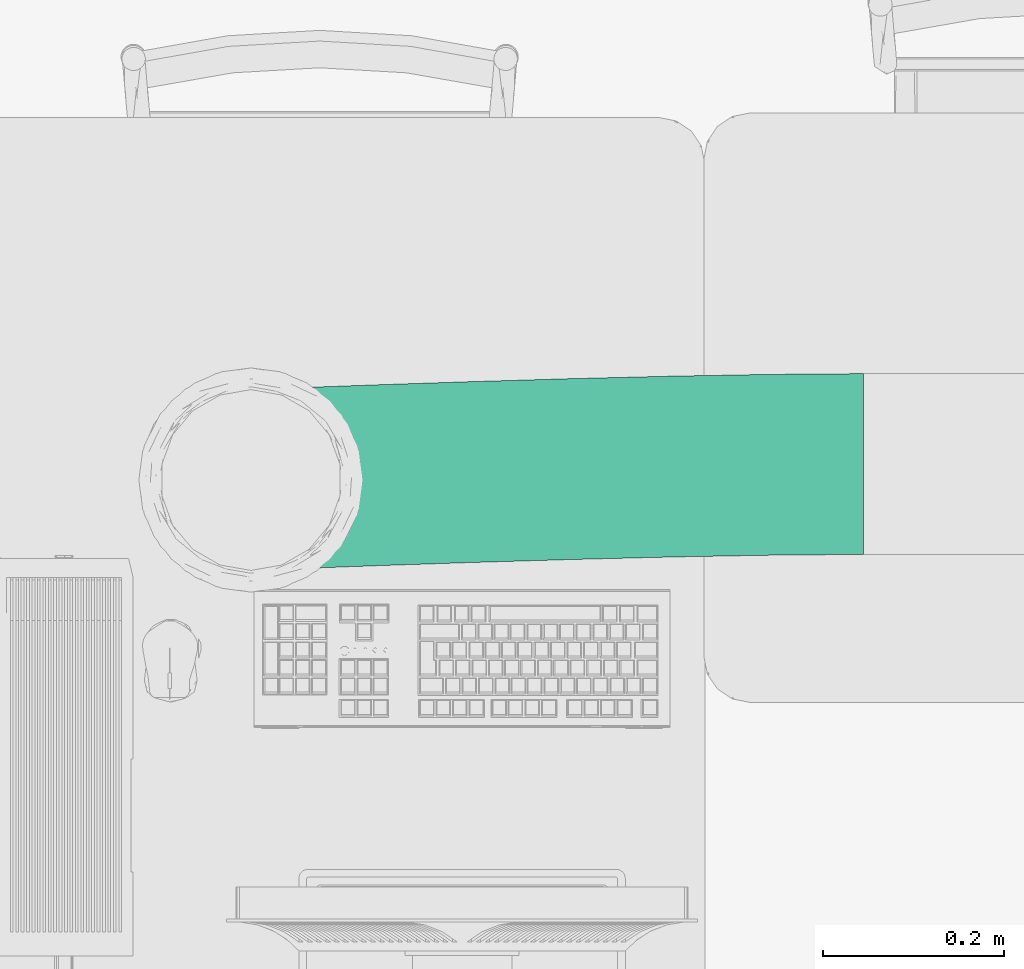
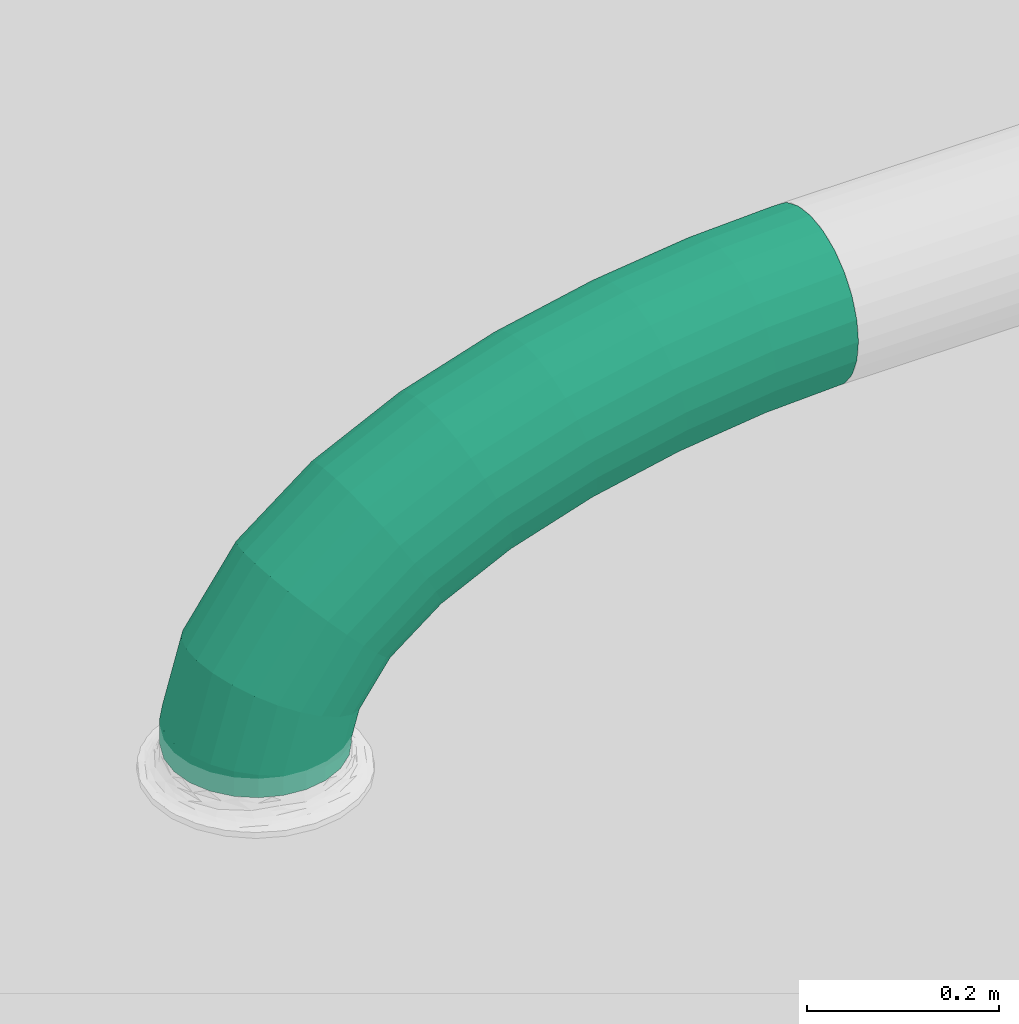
# One storey, part 26 of 31: 1 flow segment.
"""IFC2X3 building model written with IfcOpenShell, lengths in millimetres."""

import ifcopenshell
import ifcopenshell.guid

model = None  # the IFC model being written
_history = None  # IfcOwnerHistory: only IFC2X3 demands one
_inside = {}  # id of a spatial element -> (the spatial element, [elements in it])
_under = {}  # id of a project, library or spatial element -> (it, [spatial elements below it])
_declared = {}  # id of a project -> (the project, [libraries it declares])
_typed = {}  # id of a type object -> (the type object, [elements of that type])
_made_of = {}  # id of a material, layer set ... -> (it, [elements and type objects made of it])


def new_model(schema):
    """Start an empty IFC model of exactly this schema.

    Asked for "IFC4X3", IfcOpenShell would pick the latest addendum, in which some entities
    have other attributes; the version numbers below select the first issue.
    IFC2X3 requires an IfcOwnerHistory on every rooted entity: one is made here for all.
    """
    global model, _history
    if schema == "IFC4X3":
        model = ifcopenshell.file(schema_version=(4, 3, 0, 0))
    else:
        model = ifcopenshell.file(schema=schema)
    _inside.clear()
    _under.clear()
    _declared.clear()
    _typed.clear()
    _made_of.clear()
    _history = None
    if model.schema == "IFC2X3":
        org = make("IfcOrganization", Name="unknown")
        user = make(
            "IfcPersonAndOrganization",
            ThePerson=make("IfcPerson", FamilyName="unknown"),
            TheOrganization=org,
        )
        app = make(
            "IfcApplication",
            ApplicationDeveloper=org,
            Version="unknown",
            ApplicationFullName="unknown",
            ApplicationIdentifier="unknown",
        )
        _history = make(
            "IfcOwnerHistory",
            OwningUser=user,
            OwningApplication=app,
            ChangeAction="ADDED",
            CreationDate=0,
        )
    return model


def make(cls, **values):
    """One entity of the class cls with the attributes given. An attribute that is None is left unset."""
    return model.create_entity(
        cls, **{name: value for name, value in values.items() if value is not None}
    )


def entity(cls, *values):
    """Any entity or typed value of the class cls, its attributes in the order of the schema. None: left unset."""
    e = model.create_entity(cls)
    for i, value in enumerate(values):
        if value is not None:
            e[i] = value
    return e


def rooted(cls, **values):
    """An entity with a GlobalId (a new one), such as an element, a storey or a relation."""
    return make(cls, GlobalId=ifcopenshell.guid.new(), OwnerHistory=_history, **values)


def si_unit(unit_type, name, prefix=None):
    """IfcSIUnit, for example si_unit("LENGTHUNIT", "METRE", prefix="MILLI")."""
    return make("IfcSIUnit", UnitType=unit_type, Prefix=prefix, Name=name)


def converted_unit(unit_type, name, factor, base, dimensions=None, offset=None):
    """IfcConversionBasedUnit, such as the inch: factor (a typed value) times the base unit."""
    return make(
        "IfcConversionBasedUnit"
        if offset is None
        else "IfcConversionBasedUnitWithOffset",
        ConversionOffset=offset,
        Dimensions=None
        if dimensions is None
        else entity("IfcDimensionalExponents", *dimensions),
        UnitType=unit_type,
        Name=name,
        ConversionFactor=make(
            "IfcMeasureWithUnit", ValueComponent=factor, UnitComponent=base
        ),
    )


def derived_unit(unit_type, elements):
    """IfcDerivedUnit: a product of units, each with its exponent."""
    return make(
        "IfcDerivedUnit",
        Elements=[
            make("IfcDerivedUnitElement", Unit=unit, Exponent=power)
            for unit, power in elements
        ],
        UnitType=unit_type,
    )


def assignment(units):
    """IfcUnitAssignment: the units of a project."""
    return None if units is None else make("IfcUnitAssignment", Units=units)


def point(xyz):
    """IfcCartesianPoint."""
    return None if xyz is None else make("IfcCartesianPoint", Coordinates=xyz)


def direction(xyz):
    """IfcDirection."""
    return None if xyz is None else make("IfcDirection", DirectionRatios=xyz)


def frame(location, z_axis=None, x_axis=None):
    """IfcAxis2Placement3D, a coordinate frame: its origin and axes. An axis left out is left unset."""
    return make(
        "IfcAxis2Placement3D",
        Location=point(location),
        Axis=direction(z_axis),
        RefDirection=direction(x_axis),
    )


def origin():
    """The frame at (0, 0, 0) with its axes left unset."""
    return frame((0.0, 0.0, 0.0))


def place(relative_to, where):
    """IfcLocalPlacement: puts the frame where relative to a parent placement (None: the world)."""
    return make(
        "IfcLocalPlacement", PlacementRelTo=relative_to, RelativePlacement=where
    )


def context(
    kind, dimensions, precision=None, world=None, true_north=None, identifier=None
):
    """IfcGeometricRepresentationContext, for example the 3D "Model" context."""
    return make(
        "IfcGeometricRepresentationContext",
        ContextIdentifier=identifier,
        ContextType=kind,
        CoordinateSpaceDimension=dimensions,
        Precision=precision,
        WorldCoordinateSystem=world,
        TrueNorth=true_north,
    )


def subcontext(parent, identifier, kind, view, scale=None):
    """IfcGeometricRepresentationSubContext, for example "Body" below "Model"."""
    return make(
        "IfcGeometricRepresentationSubContext",
        ContextIdentifier=identifier,
        ContextType=kind,
        ParentContext=parent,
        TargetScale=scale,
        TargetView=view,
    )


def project(units=None, contexts=None):
    """IfcProject with its units and contexts."""
    return rooted(
        "IfcProject",
        Name="project",
        RepresentationContexts=contexts,
        UnitsInContext=assignment(units),
    )


def spatial(cls, under=None, at=None, **own):
    """A site, building, storey or space (cls), placed at a placement, below another one or the project."""
    s = rooted(cls, ObjectPlacement=at, **own)
    if under is not None:
        _under.setdefault(under.id(), (under, []))[1].append(s)
    return s


def faces_of(points, faces, orient=None, outer=None):
    """IfcFace entities. A face is a list of loops; a loop is a list of indices into points, from 0.

    orient and outer hold one flag for each loop. By default every Orientation is true, the
    first loop of a face is its IfcFaceOuterBound and the others are IfcFaceBound.
    """
    made = []
    for i, loops in enumerate(faces):
        bounds = []
        for j, loop in enumerate(loops):
            is_outer = j == 0 if outer is None else outer[i][j]
            bounds.append(
                make(
                    "IfcFaceOuterBound" if is_outer else "IfcFaceBound",
                    Bound=make("IfcPolyLoop", Polygon=[points[k] for k in loop]),
                    Orientation=True if orient is None else orient[i][j],
                )
            )
        made.append(make("IfcFace", Bounds=bounds))
    return made


def faceted_brep(points, faces, orient=None, outer=None, voids=None):
    """IfcFacetedBrep: a solid bounded by flat faces; with voids (closed shells), ...WithVoids."""
    shared = [point(p) for p in points]
    hull = make("IfcClosedShell", CfsFaces=faces_of(shared, faces, orient, outer))
    if voids is None:
        return make("IfcFacetedBrep", Outer=hull)
    return make(
        "IfcFacetedBrepWithVoids",
        Outer=hull,
        Voids=[
            make(cls, CfsFaces=faces_of(shared, fs, o, b)) for cls, fs, o, b in voids
        ],
    )


def shape(context_of_items, identifier, shape_type, items):
    """IfcShapeRepresentation: the items that make up one representation, for example the "Body"."""
    return make(
        "IfcShapeRepresentation",
        ContextOfItems=context_of_items,
        RepresentationIdentifier=identifier,
        RepresentationType=shape_type,
        Items=items,
    )


def made_of(thing, what):
    """Note that an element or type object is made of a material, layer set ...; save() writes the relation."""
    if what is not None:
        _made_of.setdefault(what.id(), (what, []))[1].append(thing)
    return thing


def type_object(cls, material=None, **own):
    """A type object (cls), such as IfcWallType, which elements share."""
    return made_of(rooted(cls, **own), material)


def element(
    cls,
    number,
    at=None,
    inside=None,
    cuts=None,
    type_object=None,
    material=None,
    context=None,
    identifier="Body",
    shape_type=None,
    held_by="IfcProductDefinitionShape",
    body=None,
    shapes=None,
    **own,
):
    """One element of the class cls, such as IfcWall. Its Tag is "e" and its number.

    at: its placement. inside: the storey or other place that contains it. cuts: it is an
    opening in that element (IfcRelVoidsElement). A single representation is given by context,
    identifier, shape_type and body (its items); several are given by shapes. held_by: the class
    of the entity that holds the representations. save() writes the other relations.
    """
    e = rooted(cls, Tag="e%d" % number, ObjectPlacement=at, **own)
    if body is not None:
        shapes = [shape(context, identifier, shape_type, body)]
    if shapes is not None:
        e.Representation = make(held_by, Representations=shapes)
    if inside is not None:
        _inside.setdefault(inside.id(), (inside, []))[1].append(e)
    if cuts is not None:
        rooted(
            "IfcRelVoidsElement", RelatingBuildingElement=cuts, RelatedOpeningElement=e
        )
    if type_object is not None:
        _typed.setdefault(type_object.id(), (type_object, []))[1].append(e)
    return made_of(e, material)


def aggregate(whole, parts):
    """IfcRelAggregates: a whole, such as a stair, and the parts it consists of."""
    return rooted("IfcRelAggregates", RelatingObject=whole, RelatedObjects=parts)


def save(model, path):
    """Write the relations noted so far, then the file.

    IfcRelAggregates (storeys below a building ...), IfcRelContainedInSpatialStructure (elements
    in a storey), IfcRelDefinesByType, IfcRelAssociatesMaterial and IfcRelDeclares: one each for
    every whole, place, type object, material and project.
    """
    for whole, parts in _under.values():
        aggregate(whole, parts)
    for where, things in _inside.values():
        rooted(
            "IfcRelContainedInSpatialStructure",
            RelatedElements=things,
            RelatingStructure=where,
        )
    for kind, things in _typed.values():
        rooted("IfcRelDefinesByType", RelatedObjects=things, RelatingType=kind)
    for what, things in _made_of.values():
        rooted("IfcRelAssociatesMaterial", RelatedObjects=things, RelatingMaterial=what)
    for by, libraries in _declared.values():
        rooted("IfcRelDeclares", RelatingContext=by, RelatedDefinitions=libraries)
    model.write(path)


model = new_model("IFC2X3")

# Units and contexts
model_context = context("Model", 3, precision=0.01, world=origin(), true_north=direction((6.123031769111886e-17, 1.0)))
body_context = subcontext(model_context, "Body", "Model", "MODEL_VIEW")
ifc_project = project(units=[si_unit("LENGTHUNIT", "METRE", prefix="MILLI"), si_unit("AREAUNIT", "SQUARE_METRE"), si_unit("VOLUMEUNIT", "CUBIC_METRE"), converted_unit("PLANEANGLEUNIT", "DEGREE", entity("IfcRatioMeasure", 0.017453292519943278), si_unit("PLANEANGLEUNIT", "RADIAN"), dimensions=[0, 0, 0, 0, 0, 0, 0]), si_unit("MASSUNIT", "GRAM", prefix="KILO"), derived_unit("MASSDENSITYUNIT", [(si_unit("MASSUNIT", "GRAM", prefix="KILO"), 1), (si_unit("LENGTHUNIT", "METRE"), -3)]), derived_unit("MOMENTOFINERTIAUNIT", [(si_unit("LENGTHUNIT", "METRE"), 4)]), si_unit("TIMEUNIT", "SECOND"), si_unit("FREQUENCYUNIT", "HERTZ"), si_unit("THERMODYNAMICTEMPERATUREUNIT", "DEGREE_CELSIUS"), derived_unit("THERMALTRANSMITTANCEUNIT", [(si_unit("MASSUNIT", "GRAM", prefix="KILO"), 1), (si_unit("THERMODYNAMICTEMPERATUREUNIT", "KELVIN"), -1), (si_unit("TIMEUNIT", "SECOND"), -3)]), derived_unit("VOLUMETRICFLOWRATEUNIT", [(si_unit("LENGTHUNIT", "METRE"), 3), (si_unit("TIMEUNIT", "SECOND"), -1)]), derived_unit("MASSFLOWRATEUNIT", [(si_unit("MASSUNIT", "GRAM", prefix="KILO"), 1), (si_unit("TIMEUNIT", "SECOND"), -1)]), derived_unit("ROTATIONALFREQUENCYUNIT", [(si_unit("TIMEUNIT", "SECOND"), -1)]), si_unit("ELECTRICCURRENTUNIT", "AMPERE"), si_unit("ELECTRICVOLTAGEUNIT", "VOLT"), si_unit("POWERUNIT", "WATT"), si_unit("FORCEUNIT", "NEWTON", prefix="KILO"), si_unit("ILLUMINANCEUNIT", "LUX"), si_unit("LUMINOUSFLUXUNIT", "LUMEN"), si_unit("LUMINOUSINTENSITYUNIT", "CANDELA"), derived_unit("USERDEFINED", [(si_unit("MASSUNIT", "GRAM", prefix="KILO"), -1), (si_unit("LENGTHUNIT", "METRE"), -2), (si_unit("TIMEUNIT", "SECOND"), 3), (si_unit("LUMINOUSFLUXUNIT", "LUMEN"), 1)]), derived_unit("SOUNDPOWERUNIT", [(si_unit("MASSUNIT", "GRAM", prefix="KILO"), 1), (si_unit("LENGTHUNIT", "METRE"), 2), (si_unit("TIMEUNIT", "SECOND"), -3)]), derived_unit("SOUNDPRESSUREUNIT", [(si_unit("MASSUNIT", "GRAM", prefix="KILO"), 1), (si_unit("LENGTHUNIT", "METRE"), -1), (si_unit("TIMEUNIT", "SECOND"), -2)]), derived_unit("LINEARVELOCITYUNIT", [(si_unit("LENGTHUNIT", "METRE"), 1), (si_unit("TIMEUNIT", "SECOND"), -1)]), si_unit("PRESSUREUNIT", "PASCAL"), derived_unit("USERDEFINED", [(si_unit("LENGTHUNIT", "METRE"), -2), (si_unit("MASSUNIT", "GRAM", prefix="KILO"), 1), (si_unit("TIMEUNIT", "SECOND"), -2)]), derived_unit("LINEARFORCEUNIT", [(si_unit("MASSUNIT", "GRAM", prefix="KILO"), 1), (si_unit("LENGTHUNIT", "METRE"), 1), (si_unit("TIMEUNIT", "SECOND"), -2), (si_unit("LENGTHUNIT", "METRE"), -1)]), derived_unit("PLANARFORCEUNIT", [(si_unit("MASSUNIT", "GRAM", prefix="KILO"), 1), (si_unit("LENGTHUNIT", "METRE"), 1), (si_unit("TIMEUNIT", "SECOND"), -2), (si_unit("LENGTHUNIT", "METRE"), -2)])], contexts=[model_context])

# Site, building, storey
site_placement = place(None, origin())
site = spatial("IfcSite", under=ifc_project, at=site_placement, Name="Default", CompositionType="ELEMENT")
building_placement = place(site_placement, origin())
building = spatial("IfcBuilding", under=site, at=building_placement, CompositionType="ELEMENT")
storey_placement = place(building_placement, frame((0.0, 0.0, 3880.0)))
storey = spatial("IfcBuildingStorey", under=building, at=storey_placement, Name="Niveau 1", CompositionType="ELEMENT", Elevation=3880.0)

# Flow segment
duct_segment_type = type_object("IfcDuctSegmentType", Name="Gaine flexible circulaire:Souple - Circulaire piquage Aldes", PredefinedType="FLEXIBLESEGMENT")
flow_segment_placement = place(storey_placement, frame((-5031.545721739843, -4561.545721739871, 2827.5000000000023)))
element("IfcFlowSegment", 1, at=flow_segment_placement, inside=storey, type_object=duct_segment_type, Name="Gaine flexible circulaire:Souple - Circulaire piquage Aldes", ObjectType="Gaine flexible circulaire:Souple - Circulaire piquage Aldes", context=body_context, shape_type="Brep", body=[
    faceted_brep([(779.045721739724, 215.7828842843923, 296.6180954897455), (779.045721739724, 219.1903016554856, 322.4999999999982), (779.045721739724, 215.7828842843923, 348.38190451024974), (779.045721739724, 205.7928420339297, 372.4999999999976), (779.045721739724, 189.90097977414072, 393.2106781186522), (779.045721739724, 169.19030165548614, 409.1025403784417), (779.045721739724, 145.0722061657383, 419.0925826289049), (779.045721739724, 119.19030165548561, 422.4999999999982), (779.045721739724, 93.30839714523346, 419.0925826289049), (779.045721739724, 69.1903016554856, 409.1025403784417), (779.045721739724, 48.47962353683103, 393.2106781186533), (779.045721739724, 32.58776127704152, 372.4999999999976), (779.045721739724, 22.597719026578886, 348.38190451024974), (779.045721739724, 19.190301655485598, 322.4999999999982), (779.045721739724, 20.894010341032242, 309.5590477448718), (779.045721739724, 22.597719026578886, 296.61809548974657), (779.045721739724, 27.592740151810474, 284.55904774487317), (779.045721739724, 32.58776127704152, 272.4999999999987), (779.045721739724, 40.533692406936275, 262.14466094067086), (779.045721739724, 48.47962353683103, 251.78932188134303), (779.045721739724, 58.83496259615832, 243.84339075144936), (779.045721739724, 69.1903016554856, 235.89745962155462), (779.0457217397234, 75.21982552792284, 233.3999490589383), (779.0457217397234, 81.24934940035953, 230.90243849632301), (779.045721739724, 93.30839714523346, 225.90741737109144), (779.045721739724, 106.24934940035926, 224.2037086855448), (779.045721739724, 119.19030165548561, 222.49999999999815), (779.045721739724, 145.07220616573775, 225.90741737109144), (779.045721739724, 169.1903016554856, 235.89745962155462), (779.045721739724, 189.90097977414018, 251.78932188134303), (779.045721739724, 205.79284203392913, 272.4999999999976), (777.3691296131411, 93.30839714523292, 225.90741737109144), (777.3502166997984, 106.24934940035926, 224.2037086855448), (777.3391861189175, 113.79690264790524, 223.2100544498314), (777.3313037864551, 119.19030165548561, 222.49999999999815), (777.2785961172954, 69.19030165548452, 235.89745962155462), (777.3238628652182, 81.249349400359, 230.90243849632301), (776.3391839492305, 22.597719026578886, 296.61809548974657), (776.5423204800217, 27.592740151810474, 284.55904774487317), (776.7454570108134, 32.58776127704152, 272.4999999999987), (775.8747406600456, 19.190301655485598, 322.49999999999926), (776.0667926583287, 20.599303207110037, 311.7975706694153), (776.9056650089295, 40.533692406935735, 262.14466094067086), (777.0658730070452, 48.47962353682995, 251.7893218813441), (777.1722345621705, 58.83496259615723, 243.84339075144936), (776.8894570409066, 169.1903016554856, 235.89745962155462), (776.5155472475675, 189.90097977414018, 251.78932188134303), (777.1676964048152, 145.0722061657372, 225.90741737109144), (775.5874249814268, 215.7828842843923, 296.6180954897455), (775.0964625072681, 219.1903016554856, 322.4999999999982), (776.0714483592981, 205.79284203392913, 272.4999999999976), (774.6320192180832, 215.78288428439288, 348.38190451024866), (774.2257461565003, 205.79284203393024, 372.4999999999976), (773.9053301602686, 189.9009797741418, 393.2106781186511), (773.6926070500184, 169.19030165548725, 409.1025403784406), (773.6020735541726, 145.07220616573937, 419.0925826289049), (773.6398993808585, 119.19030165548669, 422.4999999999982), (773.8035067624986, 93.30839714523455, 419.0925826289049), (774.0817461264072, 69.19030165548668, 409.10254037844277), (774.4556559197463, 48.479623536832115, 393.21067811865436), (774.8997548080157, 32.5877612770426, 372.4999999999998), (775.383778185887, 22.597719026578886, 348.3819045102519), (198.90511170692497, 78.71702959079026, 0.0), (189.6791706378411, 54.29643406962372, 0.0), (174.44708067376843, 33.09579942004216, 0.0), (154.24688357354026, 16.55991385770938, 0.0), (130.455189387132, 5.815670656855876, 0.0), (104.69336275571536, 1.595272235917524, 0.0), (78.71702959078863, 4.186331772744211, 0.0), (54.2964340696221, 13.412272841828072, 0.0), (33.095799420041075, 28.64436280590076, 0.0), (16.55991385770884, 48.844559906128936, 0.0), (5.8156706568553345, 72.63625409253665, 0.0), (1.5952722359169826, 98.39808072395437, 0.0), (4.186331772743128, 124.37441388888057, 0.0), (13.41227284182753, 148.7950094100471, 0.0), (28.644362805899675, 169.99564405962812, 0.0), (48.844559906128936, 186.53152962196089, 0.0), (72.6362540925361, 197.2757728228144, 0.0), (98.39808072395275, 201.49617124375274, 0.0), (124.37441388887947, 198.90511170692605, 0.0), (148.79500941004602, 189.6791706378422, 0.0), (169.99564405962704, 174.4470806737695, 0.0), (186.5315296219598, 154.2468835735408, 0.0), (197.2757728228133, 130.4551893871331, 0.0), (201.49617124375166, 104.69336275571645, 0.0), (681.1832548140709, 21.85687762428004, 293.10425508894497), (682.7619113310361, 31.856047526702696, 269.02945241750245), (679.3947867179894, 18.43915198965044, 318.9372670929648), (684.0231734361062, 47.75523479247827, 248.35351709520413), (684.8810882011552, 68.47093608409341, 232.48547994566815), (685.2771901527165, 92.59141059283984, 222.50672147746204), (685.1844855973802, 118.47288784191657, 219.09727758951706), (684.6092921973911, 144.35158792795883, 222.4894962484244), (683.5908084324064, 168.4639202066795, 232.4522033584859), (682.1984422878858, 189.16666908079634, 248.3064568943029), (678.6906257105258, 215.0284892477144, 293.039969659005), (676.814227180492, 218.4251202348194, 318.8707139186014), (680.5270812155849, 205.0489764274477, 268.9718156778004), (675.0257590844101, 215.00739460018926, 344.70372592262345), (673.4471025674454, 205.0082246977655, 368.7785285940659), (672.1858404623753, 189.10903743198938, 389.4544639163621), (671.3279256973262, 168.39333614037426, 405.32250106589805), (670.931823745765, 144.27286163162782, 415.3012595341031), (671.0245283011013, 118.39138438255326, 418.7107034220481), (671.5997217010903, 92.51268429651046, 415.31848476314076), (672.618205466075, 68.40035201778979, 405.35577765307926), (674.0105716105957, 47.69760314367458, 389.50152411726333), (675.6819326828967, 31.815295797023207, 368.8361653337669), (677.5183881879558, 21.835782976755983, 344.7680113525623), (573.4130843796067, 19.90682332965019, 281.77482812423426), (576.6563384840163, 29.936113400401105, 257.87501763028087), (569.7764307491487, 16.45565558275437, 307.41354811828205), (579.2851706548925, 45.86004625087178, 237.34284922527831), (581.1204303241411, 66.59343217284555, 221.57755625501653), (582.0370475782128, 90.7233251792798, 211.65351738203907), (581.9725564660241, 116.60531293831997, 208.24703945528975), (580.9313519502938, 142.47558075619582, 211.5902683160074), (578.9843903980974, 166.5711126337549, 221.4553684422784), (576.264354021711, 187.24983789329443, 237.17004956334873), (569.2865721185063, 213.04887054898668, 281.538779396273), (565.5043508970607, 216.4110165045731, 307.16917249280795), (572.9566088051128, 203.10253558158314, 257.6633821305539), (561.8676972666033, 212.9598487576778, 332.80789248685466), (558.6244431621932, 202.93055868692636, 356.70770298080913), (555.995610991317, 187.0066258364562, 377.2398713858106), (554.1603513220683, 166.27323991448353, 393.0051643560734), (553.2437340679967, 142.14334690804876, 402.9292032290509), (553.3082251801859, 116.26135914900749, 406.3356811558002), (554.3494296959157, 90.39109133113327, 402.99245229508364), (556.2963912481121, 66.29555945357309, 393.12735216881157), (559.016427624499, 45.61683419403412, 377.4126710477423), (562.3241728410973, 29.7641365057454, 356.9193384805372), (565.9942095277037, 19.81780153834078, 333.043941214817), (463.29969064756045, 17.15077046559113, 261.4243448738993), (468.5884876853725, 27.23125888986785, 237.90257910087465), (457.4273456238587, 13.643645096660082, 286.64987807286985), (472.9333139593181, 43.198141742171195, 217.68755021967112), (476.03807673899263, 63.96330234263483, 202.15687904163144), (477.69119157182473, 88.11162931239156, 192.36895514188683), (477.78000141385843, 113.99745407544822, 188.9908093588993), (476.2984540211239, 139.8567004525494, 192.25265674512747), (473.3475144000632, 163.92710353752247, 201.93220779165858), (469.12828420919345, 184.5683051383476, 217.3698170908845), (458.101923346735, 210.2660050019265, 260.99031334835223), (452.0462209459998, 213.57124748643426, 286.20053557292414), (463.9282970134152, 200.37364147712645, 237.51343708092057), (446.1738759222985, 210.06412211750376, 311.4260687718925), (440.88507888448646, 199.98363369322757, 334.9478345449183), (436.54025261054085, 184.0167508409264, 355.16286342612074), (433.43548983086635, 163.25159024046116, 370.69353460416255), (431.78237499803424, 139.10326327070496, 380.48145850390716), (431.69356515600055, 113.21743850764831, 383.8596042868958), (433.17511254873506, 87.35819213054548, 380.5977569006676), (436.1260521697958, 63.287789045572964, 370.9182058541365), (440.34528236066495, 42.64658744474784, 355.4805965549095), (445.5452695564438, 26.841251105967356, 335.33697656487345), (451.37164322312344, 16.948887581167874, 311.86010029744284), (358.3323451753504, 14.009852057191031, 231.02136730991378), (366.33182759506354, 24.17145181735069, 208.28473053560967), (349.52494699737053, 10.414901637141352, 255.39678512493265), (372.97824274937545, 40.20720468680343, 188.73633902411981), (377.81864842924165, 61.02430060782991, 173.70838335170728), (380.5231789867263, 85.20408889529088, 164.22499386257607), (380.9075251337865, 111.09875693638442, 160.9324478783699), (378.94549431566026, 136.943625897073, 164.0551269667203), (374.77079569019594, 160.97741066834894, 173.38022570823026), (368.6679280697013, 181.56224853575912, 188.2722540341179), (352.4443458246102, 207.10443290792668, 230.38741542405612), (343.4292415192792, 210.32112175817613, 254.7404698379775), (361.0527917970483, 197.29531681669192, 207.71634482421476), (334.62184334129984, 206.72617133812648, 279.1158876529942), (326.62236092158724, 196.56457157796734, 301.8525244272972), (319.9759457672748, 180.52881870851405, 321.40091593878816), (315.13554008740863, 159.71172278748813, 336.4288716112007), (312.4310095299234, 135.53193450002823, 345.91226110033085), (312.04666338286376, 109.6372664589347, 349.2048070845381), (314.00869420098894, 83.79239749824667, 346.0821279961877), (318.1833928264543, 59.75861272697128, 336.75702925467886), (324.286260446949, 39.173774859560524, 321.86500092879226), (331.9013967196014, 23.440706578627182, 302.4209101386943), (340.5098426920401, 13.631590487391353, 279.7498395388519), (266.0499846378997, 10.91303903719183, 189.8343012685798), (277.81176000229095, 21.200893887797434, 168.7768348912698), (253.1906630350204, 7.182114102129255, 212.40128205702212), (287.6744435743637, 37.34457834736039, 150.66391445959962), (294.965909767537, 58.24392699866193, 136.72990556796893), (299.18925721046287, 82.47468376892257, 127.92438789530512), (300.05667175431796, 108.38556262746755, 124.84744291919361), (297.5090405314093, 134.21077999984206, 127.70875935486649), (291.7199803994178, 158.1903900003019, 136.3133432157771), (283.08400623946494, 178.69022183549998, 150.0748063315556), (259.7793306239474, 203.9947787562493, 189.029564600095), (246.6988042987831, 207.07504010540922, 211.5681573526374), (272.1896454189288, 194.31324584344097, 168.0553277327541), (233.8394826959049, 203.34411517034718, 234.13513814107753), (222.07770733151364, 193.0562603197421, 255.19260451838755), (212.2150237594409, 176.91257586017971, 273.3055249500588), (204.92355756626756, 156.0132272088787, 287.2395338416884), (200.7002101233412, 131.78247043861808, 296.0450515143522), (199.83279557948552, 105.87159158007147, 299.1219964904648), (202.3804268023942, 80.04637420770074, 296.2606800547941), (208.1694869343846, 56.06676420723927, 287.6560961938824), (216.80546109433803, 35.56693237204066, 273.89463307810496), (227.69982191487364, 19.94390836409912, 255.91411167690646), (240.11013670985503, 10.262375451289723, 234.9398748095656), (193.80721522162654, 8.286355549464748, 137.73718015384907), (210.63411138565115, 18.758373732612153, 120.33237291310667), (175.50939805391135, 4.357691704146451, 156.38224648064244), (224.8433613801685, 35.060095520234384, 105.35393360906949), (235.4666282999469, 56.08058551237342, 93.82261812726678), (241.77995406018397, 80.38733205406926, 86.52426656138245), (243.3530959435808, 106.32387053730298, 83.95624950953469), (240.07884693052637, 132.1226687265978, 86.29357308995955), (232.18034168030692, 156.02558115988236, 93.37695256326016), (220.19585027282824, 176.4036638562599, 104.72366732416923), (187.4585969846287, 201.36526055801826, 136.87622039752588), (168.93682481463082, 204.24768299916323, 155.49091535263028), (204.942095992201, 191.86818415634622, 119.56045751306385), (150.63900764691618, 200.3190191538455, 174.1359816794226), (133.81211148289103, 189.84700097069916, 191.540788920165), (119.60286148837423, 173.54527918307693, 206.51922822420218), (108.97959456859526, 152.52478919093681, 218.05054370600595), (102.66626880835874, 128.21804264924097, 225.34889527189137), (101.09312692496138, 102.28150416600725, 227.91691232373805), (104.3673759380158, 76.48270597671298, 225.5795887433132), (112.26588118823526, 52.57979354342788, 218.49620927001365), (124.25037259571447, 32.20171084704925, 207.1494945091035), (139.50412687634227, 16.737190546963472, 192.31270432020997), (156.9876258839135, 7.240114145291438, 174.99694143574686), (147.02821708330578, 6.482257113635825, 74.33083731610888), (168.63365254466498, 17.138566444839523, 63.40307560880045), (123.60781533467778, 2.356033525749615, 86.03252376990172), (186.95174699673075, 33.598751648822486, 53.993947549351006), (200.73415257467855, 54.74107830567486, 46.74466966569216), (209.0416211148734, 79.1247317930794, 42.149268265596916), (211.3080123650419, 105.08800642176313, 40.520912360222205), (207.3788755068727, 130.8615479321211, 41.97057171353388), (197.52197472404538, 154.68893206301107, 46.39945443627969), (182.40904151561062, 174.9463619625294, 53.505739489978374), (140.82276599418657, 199.5666835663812, 73.66393270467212), (117.18345963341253, 202.25174104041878, 85.3420933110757), (163.06999730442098, 190.2533272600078, 62.80514529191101), (93.76305788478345, 198.12551745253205, 97.04377976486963), (72.15762242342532, 187.4692081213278, 107.97154147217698), (53.839527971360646, 171.00902291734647, 117.38066953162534), (40.05712239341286, 149.86669626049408, 124.62994741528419), (31.749653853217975, 125.48304277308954, 129.22534881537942), (29.483262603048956, 99.51976814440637, 130.85370472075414), (33.41239946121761, 73.74622663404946, 129.40404536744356), (43.26930024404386, 49.918842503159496, 124.97516264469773), (58.382233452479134, 29.661412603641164, 117.86887759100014), (77.72127766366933, 14.354447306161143, 108.56947178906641), (99.96850897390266, 5.041090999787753, 97.7106843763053), (130.45518938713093, 5.815670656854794, 17.89791667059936), (154.24688357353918, 16.5599138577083, 14.414598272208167), (104.6933627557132, 1.5952722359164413, 21.626802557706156), (174.44708067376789, 33.095799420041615, 11.414229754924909), (189.67917063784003, 54.29643406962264, 9.10128127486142), (198.9051117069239, 78.71702959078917, 7.633376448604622), (201.49617124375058, 104.69336275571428, 7.1105505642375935), (197.27577282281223, 130.45518938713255, 7.568433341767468), (186.53152962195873, 154.24688357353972, 8.975820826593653), (169.99564405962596, 174.44708067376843, 11.236801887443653), (124.37441388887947, 198.90511170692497, 17.65554569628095), (98.39808072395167, 201.49617124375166, 21.375881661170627), (148.79500941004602, 189.67917063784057, 14.197294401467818), (72.63625409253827, 197.2757728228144, 25.104767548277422), (48.84455990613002, 186.53152962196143, 28.588085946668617), (28.644362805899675, 169.99564405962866, 31.588454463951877), (13.41227284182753, 148.79500941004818, 33.901402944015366), (4.1863317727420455, 124.37441388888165, 35.369307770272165), (1.5952722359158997, 98.39808072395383, 35.892133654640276), (5.815670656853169, 72.63625409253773, 35.434250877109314), (16.559913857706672, 48.844559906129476, 34.02686339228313), (33.095799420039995, 28.64436280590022, 31.765882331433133), (54.296434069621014, 13.41227284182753, 28.805389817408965), (78.71702959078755, 4.186331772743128, 25.347138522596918)], [[[0, 1, 2, 3, 4, 5, 6, 7, 8, 9, 10, 11, 12, 13, 14, 15, 16, 17, 18, 19, 20, 21, 22, 23, 24, 25, 26, 27, 28, 29, 30]], [[25, 24, 31, 32, 33, 34, 26]], [[31, 24, 23, 22, 21, 35, 36]], [[16, 15, 37, 38, 39, 17]], [[14, 13, 40, 41, 37, 15]], [[17, 39, 42, 43, 19, 18]], [[35, 21, 20, 19, 43, 44]], [[28, 45, 46, 29]], [[47, 45, 28, 27]], [[26, 34, 47, 27]], [[48, 49, 1, 0]], [[50, 48, 0, 30]], [[46, 50, 30, 29]], [[3, 2, 51, 52]], [[4, 3, 52, 53]], [[1, 49, 51, 2]], [[6, 5, 54, 55]], [[6, 55, 56, 7]], [[53, 54, 5, 4]], [[7, 56, 57, 8]], [[8, 57, 58, 9]], [[9, 58, 59, 10]], [[11, 60, 61, 12]], [[12, 61, 40, 13]], [[10, 59, 60, 11]], [[62, 63, 64, 65, 66, 67, 68, 69, 70, 71, 72, 73, 74, 75, 76, 77, 78, 79, 80, 81, 82, 83, 84, 85]], [[86, 87, 39, 38, 37]], [[88, 86, 37, 41, 40]], [[89, 43, 42, 39, 87]], [[90, 35, 44, 43, 89]], [[91, 31, 36, 35, 90]], [[92, 34, 33, 32, 31, 91]], [[93, 94, 45, 47]], [[92, 93, 47, 34]], [[46, 45, 94, 95]], [[96, 97, 49, 48]], [[98, 96, 48, 50]], [[95, 98, 50, 46]], [[51, 49, 97, 99]], [[52, 51, 99, 100]], [[53, 52, 100, 101]], [[55, 54, 102, 103]], [[56, 55, 103, 104]], [[101, 102, 54, 53]], [[56, 104, 105, 57]], [[57, 105, 106, 58]], [[58, 106, 107, 59]], [[59, 107, 108, 60]], [[60, 108, 109, 61]], [[88, 40, 61, 109]], [[110, 111, 87, 86]], [[112, 110, 86, 88]], [[113, 89, 87, 111]], [[114, 115, 91, 90]], [[114, 90, 89, 113]], [[116, 92, 91, 115]], [[117, 118, 94, 93]], [[116, 117, 93, 92]], [[95, 94, 118, 119]], [[120, 121, 97, 96]], [[122, 120, 96, 98]], [[119, 122, 98, 95]], [[99, 97, 121, 123]], [[100, 99, 123, 124]], [[101, 100, 124, 125]], [[103, 102, 126, 127]], [[104, 103, 127, 128]], [[125, 126, 102, 101]], [[105, 104, 128, 129]], [[105, 129, 130, 106]], [[106, 130, 131, 107]], [[107, 131, 132, 108]], [[108, 132, 133, 109]], [[112, 88, 109, 133]], [[134, 135, 111, 110]], [[136, 134, 110, 112]], [[137, 113, 111, 135]], [[138, 139, 115, 114]], [[138, 114, 113, 137]], [[140, 116, 115, 139]], [[141, 142, 118, 117]], [[140, 141, 117, 116]], [[119, 118, 142, 143]], [[144, 145, 121, 120]], [[146, 144, 120, 122]], [[143, 146, 122, 119]], [[123, 121, 145, 147]], [[124, 123, 147, 148]], [[125, 124, 148, 149]], [[127, 126, 150, 151]], [[128, 127, 151, 152]], [[149, 150, 126, 125]], [[128, 152, 153, 129]], [[129, 153, 154, 130]], [[130, 154, 155, 131]], [[131, 155, 156, 132]], [[132, 156, 157, 133]], [[136, 112, 133, 157]], [[158, 159, 135, 134]], [[160, 158, 134, 136]], [[161, 137, 135, 159]], [[162, 163, 139, 138]], [[162, 138, 137, 161]], [[164, 140, 139, 163]], [[165, 166, 142, 141]], [[164, 165, 141, 140]], [[143, 142, 166, 167]], [[168, 169, 145, 144]], [[170, 168, 144, 146]], [[167, 170, 146, 143]], [[147, 145, 169, 171]], [[148, 147, 171, 172]], [[149, 148, 172, 173]], [[151, 150, 174, 175]], [[152, 151, 175, 176]], [[173, 174, 150, 149]], [[152, 176, 177, 153]], [[153, 177, 178, 154]], [[154, 178, 179, 155]], [[155, 179, 180, 156]], [[156, 180, 181, 157]], [[160, 136, 157, 181]], [[182, 183, 159, 158]], [[184, 182, 158, 160]], [[185, 161, 159, 183]], [[186, 187, 163, 162]], [[186, 162, 161, 185]], [[188, 164, 163, 187]], [[189, 190, 166, 165]], [[188, 189, 165, 164]], [[167, 166, 190, 191]], [[192, 193, 169, 168]], [[194, 192, 168, 170]], [[191, 194, 170, 167]], [[171, 169, 193, 195]], [[172, 171, 195, 196]], [[173, 172, 196, 197]], [[175, 174, 198, 199]], [[176, 175, 199, 200]], [[197, 198, 174, 173]], [[176, 200, 201, 177]], [[177, 201, 202, 178]], [[178, 202, 203, 179]], [[179, 203, 204, 180]], [[180, 204, 205, 181]], [[184, 160, 181, 205]], [[206, 207, 183, 182]], [[208, 206, 182, 184]], [[209, 185, 183, 207]], [[210, 211, 187, 186]], [[210, 186, 185, 209]], [[212, 188, 187, 211]], [[213, 214, 190, 189]], [[212, 213, 189, 188]], [[191, 190, 214, 215]], [[216, 217, 193, 192]], [[218, 216, 192, 194]], [[215, 218, 194, 191]], [[195, 193, 217, 219]], [[196, 195, 219, 220]], [[197, 196, 220, 221]], [[199, 198, 222, 223]], [[200, 199, 223, 224]], [[221, 222, 198, 197]], [[200, 224, 225, 201]], [[201, 225, 226, 202]], [[202, 226, 227, 203]], [[203, 227, 228, 204]], [[204, 228, 229, 205]], [[208, 184, 205, 229]], [[230, 231, 207, 206]], [[232, 230, 206, 208]], [[233, 209, 207, 231]], [[234, 235, 211, 210]], [[234, 210, 209, 233]], [[236, 212, 211, 235]], [[237, 238, 214, 213]], [[236, 237, 213, 212]], [[215, 214, 238, 239]], [[240, 241, 217, 216]], [[242, 240, 216, 218]], [[239, 242, 218, 215]], [[219, 217, 241, 243]], [[220, 219, 243, 244]], [[221, 220, 244, 245]], [[223, 222, 246, 247]], [[224, 223, 247, 248]], [[245, 246, 222, 221]], [[224, 248, 249, 225]], [[225, 249, 250, 226]], [[226, 250, 251, 227]], [[227, 251, 252, 228]], [[228, 252, 253, 229]], [[232, 208, 229, 253]], [[254, 255, 231, 230]], [[256, 254, 230, 232]], [[233, 231, 255, 257]], [[258, 259, 235, 234]], [[257, 258, 234, 233]], [[236, 235, 259, 260]], [[261, 262, 238, 237]], [[260, 261, 237, 236]], [[263, 239, 238, 262]], [[264, 265, 241, 240]], [[266, 264, 240, 242]], [[266, 242, 239, 263]], [[241, 265, 267, 243]], [[243, 267, 268, 244]], [[269, 245, 244, 268]], [[246, 270, 271, 247]], [[247, 271, 272, 248]], [[270, 246, 245, 269]], [[249, 248, 272, 273]], [[250, 249, 273, 274]], [[274, 275, 251, 250]], [[252, 251, 275, 276]], [[253, 252, 276, 277]], [[232, 253, 277, 256]], [[254, 256, 67, 66]], [[255, 254, 66, 65]], [[257, 255, 65, 64]], [[259, 258, 63, 62]], [[260, 259, 62, 85]], [[257, 64, 63, 258]], [[260, 85, 84, 261]], [[261, 84, 83, 262]], [[262, 83, 82, 263]], [[266, 81, 80, 264]], [[264, 80, 79, 265]], [[266, 263, 82, 81]], [[265, 79, 78, 267]], [[267, 78, 77, 268]], [[268, 77, 76, 269]], [[270, 75, 74, 271]], [[271, 74, 73, 272]], [[269, 76, 75, 270]], [[273, 272, 73, 72]], [[274, 273, 72, 71]], [[275, 274, 71, 70]], [[277, 276, 69, 68]], [[256, 277, 68, 67]], [[70, 69, 276, 275]]]),
])

save(model, "model.ifc")
